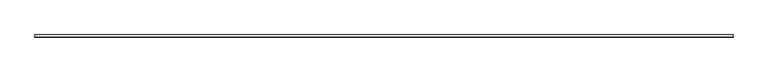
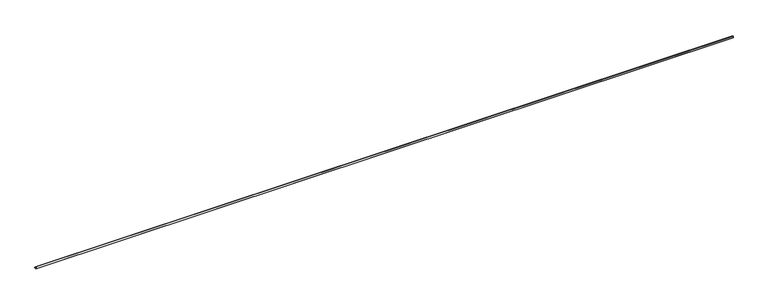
"""IFC4 building model written with IfcOpenShell, lengths in millimetres: slab geometry, ROSA GRES_188 : Pieza 188_Pietro_White_Anti-Slip."""

from ifc_helpers import new_model, si_unit, point, frame, frame_2d, origin, place, context, project, spatial, polyline, circle_curve, trimmed, segment, composite_curve, outline, extrude, source, transform, mapped, element, save


def slab_998922ee(model_context):
    return source(origin(), model_context, "Body", "SweptSolid", [
        extrude(outline(composite_curve([segment(polyline([(0.0, 8.7114978), (0.0, 40.0), (9.9734114, 40.0)]), True, "CONTINUOUS"), segment(trimmed(circle_curve(frame_2d((39.9955547, 39.9955547)), 30.0221435), [point((9.9734114, 40.0))], [point((40.0, 9.9734114))], True, "CARTESIAN"), True, "CONTINUOUS"), segment(polyline([(40.0, 9.9734114), (40.0, 0.0), (8.7114978, 0.0), (0.0, 8.7114978)]), True, "CONTINUOUS")], self_intersect=False)), frame((0.0, 0.0, 0.0), z_axis=(1.0, 0.0, 0.0), x_axis=(0.0, 1.0, 0.0)), (0.0, 0.0, 1.0), 12819.9468229),
    ])


if __name__ == "__main__":
    model = new_model("IFC4")
    model_context = context("Model", 3, world=origin())
    ifc_project = project(units=[si_unit("LENGTHUNIT", "METRE", prefix="MILLI")], contexts=[model_context])
    site = spatial("IfcSite", under=ifc_project)
    building = spatial("IfcBuilding", under=site)
    placement = place(None, origin())
    slab_shape = slab_998922ee(model_context)
    element("IfcSlab", 1, ObjectType="ROSA GRES_188 : Pieza 188_Pietro_White_Anti-Slip", at=placement, inside=building, context=model_context, shape_type="MappedRepresentation", body=[
        mapped(slab_shape, transform((0.0, 0.0, 0.0), x_axis=(1.0, 0.0, 0.0), y_axis=(0.0, 1.0, 0.0), z_axis=(0.0, 0.0, 1.0))),
    ])
    save(model, "model.ifc")
